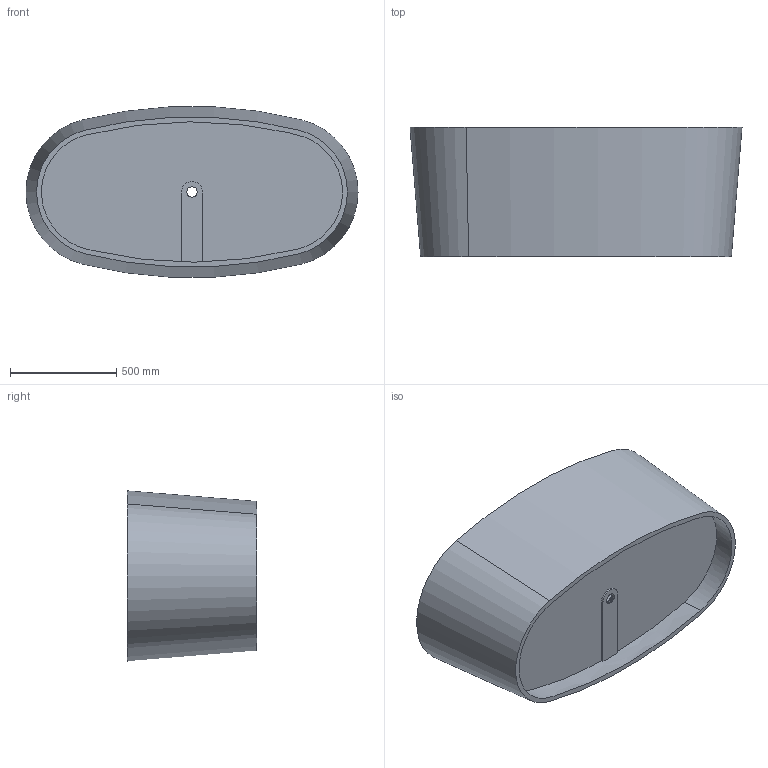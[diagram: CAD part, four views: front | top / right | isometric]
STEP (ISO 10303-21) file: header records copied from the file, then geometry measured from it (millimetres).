
FILE_DESCRIPTION (( 'STEP AP203' ), '1' );
FILE_NAME ('TC-S10.STEP', '2017-05-07T12:04:31', ( '旮僅薊襠http://www.deepbbs.org' ), ( 'http://www.deepbbs.org' ), 'SwSTEP 2.0', 'SolidWorks 2016', '' );
FILE_SCHEMA (( 'CONFIG_CONTROL_DESIGN' ));
Length unit declared in the file: millimetre
Products named in the file (1): TC-S10
Bounding box: 1565.5 x 610 x 802.82 mm (x, y, z)
Volume: 74056630 mm3; surface area: 6320391.9 mm2
Topology: 1 solids, 2 shells, 48 faces, 124 edges, 81 vertices
Faces by surface type: bspline 20, plane 17, cylinder 9, cone 2
Entity records: 8047 total; most frequent: CARTESIAN_POINT 6917, ORIENTED_EDGE 248, DIRECTION 176, EDGE_CURVE 124, VERTEX_POINT 81, AXIS2_PLACEMENT_3D 69, EDGE_LOOP 53, ADVANCED_FACE 48
